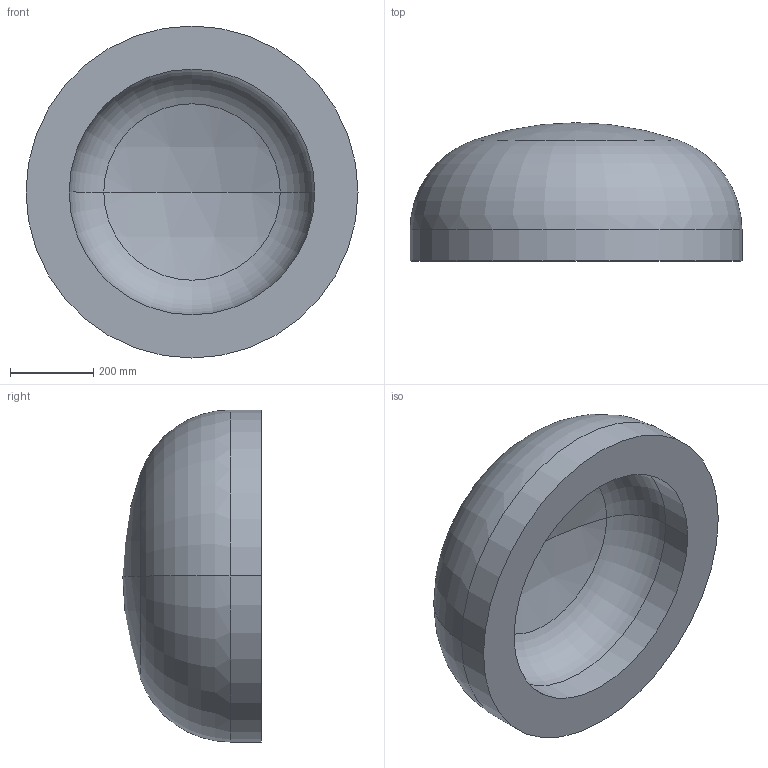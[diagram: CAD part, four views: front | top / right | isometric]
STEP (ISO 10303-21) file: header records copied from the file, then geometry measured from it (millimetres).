
FILE_DESCRIPTION (( 'STEP AP203' ), '1' );
FILE_NAME ('DIN 28013 Korbbogenform_-_Boden DIN 28013 - 800 x 75 - I - s=104.step', '2016-07-01T08:24:07', ( '' ), ( '' ), 'SwSTEP 2.0', 'SolidWorks 2013', '' );
FILE_SCHEMA (( 'CONFIG_CONTROL_DESIGN' ));
Length unit declared in the file: millimetre
Products named in the file (1): DIN 28013 Korbbogenform_-_Boden DIN 28013 - 800 x 75 - I - s=104
Bounding box: 800 x 333.22 x 800 mm (x, y, z)
Volume: 79080603.8 mm3; surface area: 1770834.7 mm2
Topology: 1 solids, 1 shells, 13 faces, 24 edges, 14 vertices
Faces by surface type: torus 4, cylinder 4, sphere 4, plane 1
Entity records: 407 total; most frequent: DIRECTION 72, CARTESIAN_POINT 52, ORIENTED_EDGE 48, AXIS2_PLACEMENT_3D 34, EDGE_CURVE 24, CIRCLE 20, VERTEX_POINT 14, EDGE_LOOP 14
